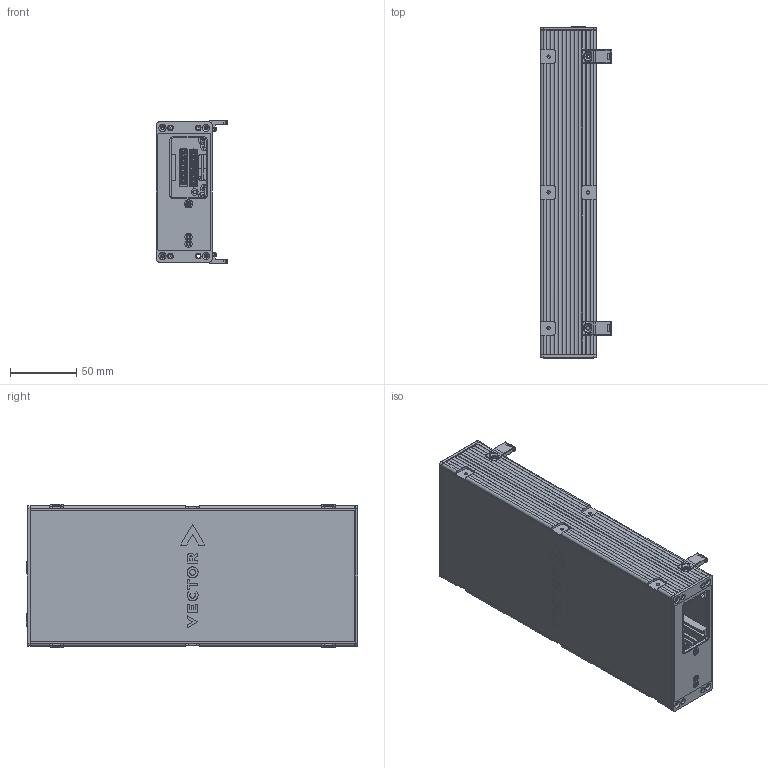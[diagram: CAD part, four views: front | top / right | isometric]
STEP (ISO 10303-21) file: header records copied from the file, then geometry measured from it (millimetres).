
FILE_DESCRIPTION(/* description */ (''),/* implementation_level */ '2;1');
FILE_NAME(/* name */ 'VP6141.stp',/* time_stamp */ '2025-11-18T10:14:09+01:00',/* author */ ('viskhp'),/* organization */ (''),/* preprocessor_version */ 'ST-DEVELOPER v20',/* originating_system */ 'Autodesk Inventor 2024',/* authorisation */ '');
FILE_SCHEMA (('AUTOMOTIVE_DESIGN { 1 0 10303 214 3 1 1 }'));
Products named in the file (1): VP6141
Bounding box: 53.8 x 251.13 x 108.83 mm (x, y, z)
Volume: 323435.1 mm3; surface area: 245424 mm2
Topology: 26 solids, 42 shells, 5236 faces, 14340 edges, 9471 vertices
Faces by surface type: plane 2934, cylinder 1547, bspline 413, cone 252, torus 69, sphere 21
Full cylindrical faces by diameter (mm): 0.457 x80, 0.6 x82, 0.8 x2, 0.9 x1, 1.1 x8, 1.2 x1, 1.27 x4, 1.3 x2, 1.45 x4, 1.567 x4, 1.6 x2, 1.8 x3, 2 x5, 2.013 x32, 2.3 x6, 2.45 x4, 2.459 x40, 2.5 x4, 2.7 x1, 2.8 x8, 2.9 x14, 3 x8, 3.05 x4, 3.2 x15, 3.242 x8, 3.35 x4, 3.4 x6, 3.45 x2, 3.5 x2, 3.7 x5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
Entity records: 179526 total; most frequent: CARTESIAN_POINT 40655, ORIENTED_EDGE 28540, DIRECTION 26341, EDGE_CURVE 14270, VERTEX_POINT 9463, LINE 9451, VECTOR 9451, AXIS2_PLACEMENT_3D 8445
